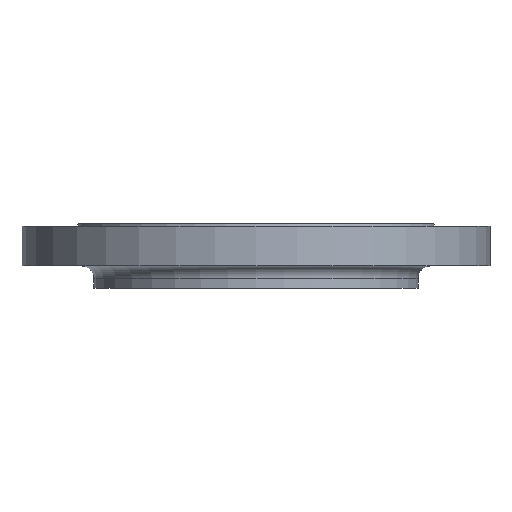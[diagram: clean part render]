
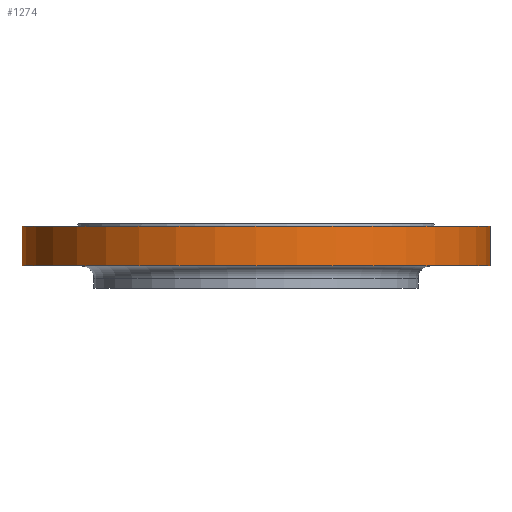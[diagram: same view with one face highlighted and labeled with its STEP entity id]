
A CAD part, front view. The second image highlights one B-rep face of the part: STEP entity #1274.
In plain terms, the highlighted cylindrical face has radius 187.5 mm (diameter 375 mm), a partial arc.
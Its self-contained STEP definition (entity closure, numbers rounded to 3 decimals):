
#47 = CARTESIAN_POINT ( 'NONE',  ( -187.5, 0., -98. ) ) ;
#170 = DIRECTION ( 'NONE',  ( 0., 0., 1. ) ) ;
#171 = CARTESIAN_POINT ( 'NONE',  ( 187.5, 0., -98. ) ) ;
#174 = LINE ( 'NONE', #171, #622 ) ;
#175 = CARTESIAN_POINT ( 'NONE',  ( 187.5, 0., -2. ) ) ;
#184 = AXIS2_PLACEMENT_3D ( 'NONE', #1273, #430, #824 ) ;
#278 = CARTESIAN_POINT ( 'NONE',  ( 0., 0., -2. ) ) ;
#285 = CARTESIAN_POINT ( 'NONE',  ( 0., 0., -98. ) ) ;
#430 = DIRECTION ( 'NONE',  ( 0., 0., 1. ) ) ;
#477 = VERTEX_POINT ( 'NONE', #175 ) ;
#482 = EDGE_CURVE ( 'NONE', #875, #477, #174, .T. ) ;
#622 = VECTOR ( 'NONE', #170, 1000. ) ;
#683 = ORIENTED_EDGE ( 'NONE', *, *, #1151, .F. ) ;
#688 = ORIENTED_EDGE ( 'NONE', *, *, #1146, .T. ) ;
#692 = ORIENTED_EDGE ( 'NONE', *, *, #482, .T. ) ;
#694 = ORIENTED_EDGE ( 'NONE', *, *, #819, .T. ) ;
#711 = DIRECTION ( 'NONE',  ( 0., 0., 1. ) ) ;
#713 = AXIS2_PLACEMENT_3D ( 'NONE', #278, #785, #1160 ) ;
#744 = CARTESIAN_POINT ( 'NONE',  ( -187.5, 0., -2. ) ) ;
#785 = DIRECTION ( 'NONE',  ( 0., 0., -1. ) ) ;
#786 = DIRECTION ( 'NONE',  ( 0., 0., 1. ) ) ;
#791 = CARTESIAN_POINT ( 'NONE',  ( 187.5, 0., -34. ) ) ;
#819 = EDGE_CURVE ( 'NONE', #477, #1085, #1188, .T. ) ;
#824 = DIRECTION ( 'NONE',  ( 1., 0., 0. ) ) ;
#844 = FACE_OUTER_BOUND ( 'NONE', #857, .T. ) ;
#857 = EDGE_LOOP ( 'NONE', ( #683, #688, #692, #694 ) ) ;
#858 = CIRCLE ( 'NONE', #184, 187.5 ) ;
#875 = VERTEX_POINT ( 'NONE', #791 ) ;
#1022 = VERTEX_POINT ( 'NONE', #1104 ) ;
#1085 = VERTEX_POINT ( 'NONE', #744 ) ;
#1104 = CARTESIAN_POINT ( 'NONE',  ( -187.5, 0., -34. ) ) ;
#1146 = EDGE_CURVE ( 'NONE', #1022, #875, #858, .T. ) ;
#1147 = LINE ( 'NONE', #47, #1189 ) ;
#1151 = EDGE_CURVE ( 'NONE', #1022, #1085, #1147, .T. ) ;
#1160 = DIRECTION ( 'NONE',  ( -1., 0., 0. ) ) ;
#1162 = DIRECTION ( 'NONE',  ( 1., 0., 0. ) ) ;
#1188 = CIRCLE ( 'NONE', #713, 187.5 ) ;
#1189 = VECTOR ( 'NONE', #711, 1000. ) ;
#1213 = CYLINDRICAL_SURFACE ( 'NONE', #1303, 187.5 ) ;
#1273 = CARTESIAN_POINT ( 'NONE',  ( 0., 0., -34. ) ) ;
#1274 = ADVANCED_FACE ( 'NONE', ( #844 ), #1213, .T. ) ;
#1303 = AXIS2_PLACEMENT_3D ( 'NONE', #285, #786, #1162 ) ;
